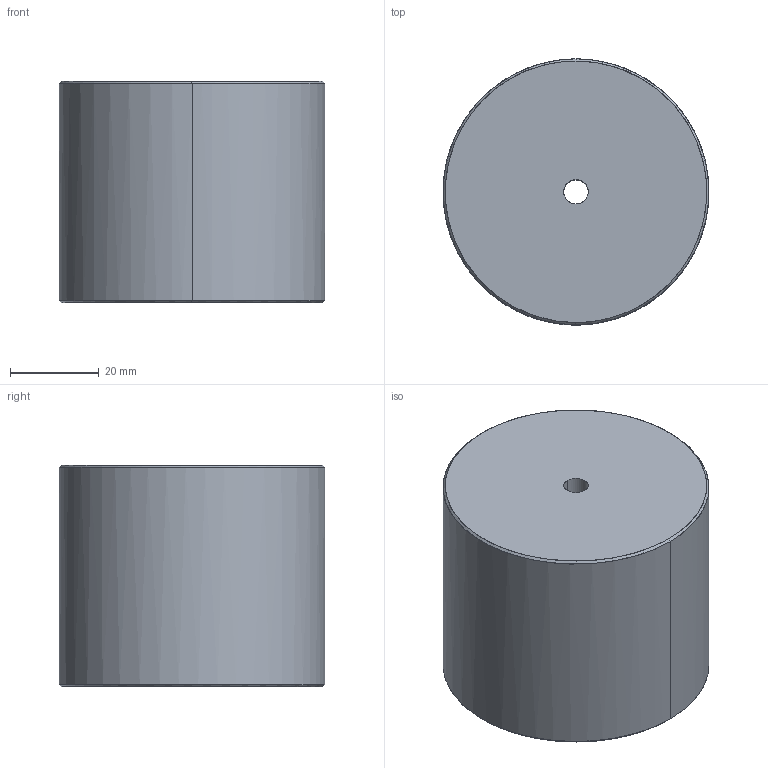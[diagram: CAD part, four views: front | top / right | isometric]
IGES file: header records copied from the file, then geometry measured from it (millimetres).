
Global section: file name: E:\UnigraphicsGraphicData\MISUMI_PRESS-PARTS\IGES\3d_fwss-d60-v5.5-t50_00544_r00.igs; native system: NX V5.0; preprocessor: UGS NX IGES V5.0; author: MISUMI; date: 20110105.160701; units: millimetre
Bounding box: 59.93 x 60 x 50 mm (x, y, z)
Surface area: 15785.9 mm2 (no closed solid volume)
Topology: 0 solids, 0 shells, 10 faces, 80 edges, 80 vertices
Faces by surface type: bspline 10
